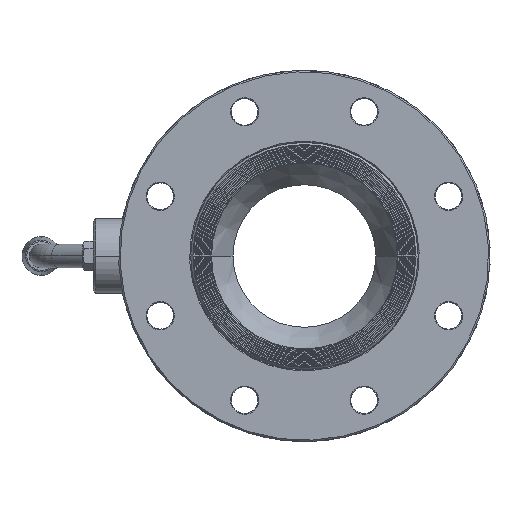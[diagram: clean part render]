
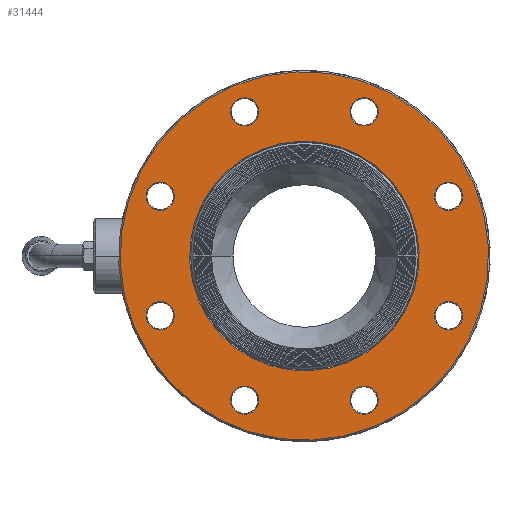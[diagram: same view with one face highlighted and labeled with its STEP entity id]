
A CAD part, left-side view. The second image highlights one B-rep face of the part: STEP entity #31444.
In plain terms, the highlighted planar face has unit normal (-1, 0, 0).
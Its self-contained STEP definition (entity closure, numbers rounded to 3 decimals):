
#3973=CARTESIAN_POINT('',(-98.,0.,0.));
#3974=DIRECTION('',(-1.,0.,0.));
#3975=DIRECTION('',(0.,-0.924,0.383));
#3976=AXIS2_PLACEMENT_3D('',#3973,#3974,#3975);
#3981=CARTESIAN_POINT('',(-98.,0.,0.));
#3982=DIRECTION('',(-1.,0.,0.));
#3983=DIRECTION('',(0.,0.924,-0.383));
#3984=AXIS2_PLACEMENT_3D('',#3981,#3982,#3983);
#3989=CARTESIAN_POINT('',(-98.,0.,0.));
#3990=DIRECTION('',(-1.,0.,0.));
#3991=DIRECTION('',(0.,-0.924,0.383));
#3992=AXIS2_PLACEMENT_3D('',#3989,#3990,#3991);
#3997=CARTESIAN_POINT('',(-98.,0.,0.));
#3998=DIRECTION('',(-1.,0.,0.));
#3999=DIRECTION('',(0.,0.924,-0.383));
#4000=AXIS2_PLACEMENT_3D('',#3997,#3998,#3999);
#4005=CARTESIAN_POINT('',(-98.,97.007,40.182));
#4006=DIRECTION('',(1.,0.,0.));
#4007=DIRECTION('',(0.,0.924,-0.383));
#4008=AXIS2_PLACEMENT_3D('',#4005,#4006,#4007);
#4013=CARTESIAN_POINT('',(-98.,97.007,40.182));
#4014=DIRECTION('',(1.,0.,0.));
#4015=DIRECTION('',(0.,-0.924,0.383));
#4016=AXIS2_PLACEMENT_3D('',#4013,#4014,#4015);
#4021=CARTESIAN_POINT('',(-98.,97.007,-40.182));
#4022=DIRECTION('',(1.,0.,0.));
#4023=DIRECTION('',(0.,0.924,-0.383));
#4024=AXIS2_PLACEMENT_3D('',#4021,#4022,#4023);
#4029=CARTESIAN_POINT('',(-98.,97.007,-40.182));
#4030=DIRECTION('',(1.,0.,0.));
#4031=DIRECTION('',(0.,-0.924,0.383));
#4032=AXIS2_PLACEMENT_3D('',#4029,#4030,#4031);
#4037=CARTESIAN_POINT('',(-98.,40.182,-97.007));
#4038=DIRECTION('',(1.,0.,0.));
#4039=DIRECTION('',(0.,0.924,-0.383));
#4040=AXIS2_PLACEMENT_3D('',#4037,#4038,#4039);
#4045=CARTESIAN_POINT('',(-98.,40.182,-97.007));
#4046=DIRECTION('',(1.,0.,0.));
#4047=DIRECTION('',(0.,-0.924,0.383));
#4048=AXIS2_PLACEMENT_3D('',#4045,#4046,#4047);
#4053=CARTESIAN_POINT('',(-98.,-40.182,-97.007));
#4054=DIRECTION('',(1.,0.,0.));
#4055=DIRECTION('',(0.,0.924,-0.383));
#4056=AXIS2_PLACEMENT_3D('',#4053,#4054,#4055);
#4061=CARTESIAN_POINT('',(-98.,-40.182,-97.007));
#4062=DIRECTION('',(1.,0.,0.));
#4063=DIRECTION('',(0.,-0.924,0.383));
#4064=AXIS2_PLACEMENT_3D('',#4061,#4062,#4063);
#4069=CARTESIAN_POINT('',(-98.,-97.007,-40.182));
#4070=DIRECTION('',(1.,0.,0.));
#4071=DIRECTION('',(0.,0.924,-0.383));
#4072=AXIS2_PLACEMENT_3D('',#4069,#4070,#4071);
#4077=CARTESIAN_POINT('',(-98.,-97.007,-40.182));
#4078=DIRECTION('',(1.,0.,0.));
#4079=DIRECTION('',(0.,-0.924,0.383));
#4080=AXIS2_PLACEMENT_3D('',#4077,#4078,#4079);
#4085=CARTESIAN_POINT('',(-98.,-97.007,40.182));
#4086=DIRECTION('',(1.,0.,0.));
#4087=DIRECTION('',(0.,0.924,-0.383));
#4088=AXIS2_PLACEMENT_3D('',#4085,#4086,#4087);
#4093=CARTESIAN_POINT('',(-98.,-97.007,40.182));
#4094=DIRECTION('',(1.,0.,0.));
#4095=DIRECTION('',(0.,-0.924,0.383));
#4096=AXIS2_PLACEMENT_3D('',#4093,#4094,#4095);
#4101=CARTESIAN_POINT('',(-98.,-40.182,97.007));
#4102=DIRECTION('',(1.,0.,0.));
#4103=DIRECTION('',(0.,0.924,-0.383));
#4104=AXIS2_PLACEMENT_3D('',#4101,#4102,#4103);
#4109=CARTESIAN_POINT('',(-98.,-40.182,97.007));
#4110=DIRECTION('',(1.,0.,0.));
#4111=DIRECTION('',(0.,-0.924,0.383));
#4112=AXIS2_PLACEMENT_3D('',#4109,#4110,#4111);
#4117=CARTESIAN_POINT('',(-98.,40.182,97.007));
#4118=DIRECTION('',(1.,0.,0.));
#4119=DIRECTION('',(0.,0.924,-0.383));
#4120=AXIS2_PLACEMENT_3D('',#4117,#4118,#4119);
#4125=CARTESIAN_POINT('',(-98.,40.182,97.007));
#4126=DIRECTION('',(1.,0.,0.));
#4127=DIRECTION('',(0.,-0.924,0.383));
#4128=AXIS2_PLACEMENT_3D('',#4125,#4126,#4127);
#27406=CARTESIAN_POINT('',(-98.,-71.37,29.562));
#27407=CARTESIAN_POINT('',(-98.,71.37,-29.562));
#27408=VERTEX_POINT('',#27406);
#27409=VERTEX_POINT('',#27407);
#27422=CARTESIAN_POINT('',(-98.,-114.561,47.453));
#27423=CARTESIAN_POINT('',(-98.,114.561,-47.453));
#27424=VERTEX_POINT('',#27422);
#27425=VERTEX_POINT('',#27423);
#27494=CARTESIAN_POINT('',(-98.,105.784,36.547));
#27495=CARTESIAN_POINT('',(-98.,88.231,43.817));
#27496=VERTEX_POINT('',#27494);
#27497=VERTEX_POINT('',#27495);
#27502=CARTESIAN_POINT('',(-98.,105.784,-43.817));
#27503=CARTESIAN_POINT('',(-98.,88.231,-36.547));
#27504=VERTEX_POINT('',#27502);
#27505=VERTEX_POINT('',#27503);
#27510=CARTESIAN_POINT('',(-98.,48.958,-100.643));
#27511=CARTESIAN_POINT('',(-98.,31.405,-93.372));
#27512=VERTEX_POINT('',#27510);
#27513=VERTEX_POINT('',#27511);
#27518=CARTESIAN_POINT('',(-98.,-31.405,-100.643));
#27519=CARTESIAN_POINT('',(-98.,-48.958,-93.372));
#27520=VERTEX_POINT('',#27518);
#27521=VERTEX_POINT('',#27519);
#27526=CARTESIAN_POINT('',(-98.,-88.231,-43.817));
#27527=CARTESIAN_POINT('',(-98.,-105.784,-36.547));
#27528=VERTEX_POINT('',#27526);
#27529=VERTEX_POINT('',#27527);
#27534=CARTESIAN_POINT('',(-98.,-88.231,36.547));
#27535=CARTESIAN_POINT('',(-98.,-105.784,43.817));
#27536=VERTEX_POINT('',#27534);
#27537=VERTEX_POINT('',#27535);
#27542=CARTESIAN_POINT('',(-98.,-31.405,93.372));
#27543=CARTESIAN_POINT('',(-98.,-48.958,100.643));
#27544=VERTEX_POINT('',#27542);
#27545=VERTEX_POINT('',#27543);
#27550=CARTESIAN_POINT('',(-98.,48.958,93.372));
#27551=CARTESIAN_POINT('',(-98.,31.405,100.643));
#27552=VERTEX_POINT('',#27550);
#27553=VERTEX_POINT('',#27551);
#31381=CARTESIAN_POINT('',(-98.,0.,0.));
#31382=DIRECTION('',(-1.,0.,0.));
#31383=DIRECTION('',(0.,0.924,-0.383));
#31384=AXIS2_PLACEMENT_3D('',#31381,#31382,#31383);
#31385=PLANE('',#31384);
#31387=ORIENTED_EDGE('',*,*,#31386,.F.);
#31389=ORIENTED_EDGE('',*,*,#31388,.F.);
#31390=EDGE_LOOP('',(#31387,#31389));
#31391=FACE_OUTER_BOUND('',#31390,.F.);
#31392=ORIENTED_EDGE('',*,*,#31374,.T.);
#31393=ORIENTED_EDGE('',*,*,#31346,.T.);
#31394=EDGE_LOOP('',(#31392,#31393));
#31395=FACE_BOUND('',#31394,.F.);
#31397=ORIENTED_EDGE('',*,*,#31396,.F.);
#31399=ORIENTED_EDGE('',*,*,#31398,.F.);
#31400=EDGE_LOOP('',(#31397,#31399));
#31401=FACE_BOUND('',#31400,.F.);
#31403=ORIENTED_EDGE('',*,*,#31402,.F.);
#31405=ORIENTED_EDGE('',*,*,#31404,.F.);
#31406=EDGE_LOOP('',(#31403,#31405));
#31407=FACE_BOUND('',#31406,.F.);
#31409=ORIENTED_EDGE('',*,*,#31408,.F.);
#31411=ORIENTED_EDGE('',*,*,#31410,.F.);
#31412=EDGE_LOOP('',(#31409,#31411));
#31413=FACE_BOUND('',#31412,.F.);
#31415=ORIENTED_EDGE('',*,*,#31414,.F.);
#31417=ORIENTED_EDGE('',*,*,#31416,.F.);
#31418=EDGE_LOOP('',(#31415,#31417));
#31419=FACE_BOUND('',#31418,.F.);
#31421=ORIENTED_EDGE('',*,*,#31420,.F.);
#31423=ORIENTED_EDGE('',*,*,#31422,.F.);
#31424=EDGE_LOOP('',(#31421,#31423));
#31425=FACE_BOUND('',#31424,.F.);
#31427=ORIENTED_EDGE('',*,*,#31426,.F.);
#31429=ORIENTED_EDGE('',*,*,#31428,.F.);
#31430=EDGE_LOOP('',(#31427,#31429));
#31431=FACE_BOUND('',#31430,.F.);
#31433=ORIENTED_EDGE('',*,*,#31432,.F.);
#31435=ORIENTED_EDGE('',*,*,#31434,.F.);
#31436=EDGE_LOOP('',(#31433,#31435));
#31437=FACE_BOUND('',#31436,.F.);
#31439=ORIENTED_EDGE('',*,*,#31438,.F.);
#31441=ORIENTED_EDGE('',*,*,#31440,.F.);
#31442=EDGE_LOOP('',(#31439,#31441));
#31443=FACE_BOUND('',#31442,.F.);
#31444=ADVANCED_FACE('',(#31391,#31395,#31401,#31407,#31413,#31419,#31425,
#31431,#31437,#31443),#31385,.T.);
#3977=CIRCLE('',#3976,124.);
#3985=CIRCLE('',#3984,124.);
#3993=CIRCLE('',#3992,77.25);
#4001=CIRCLE('',#4000,77.25);
#4009=CIRCLE('',#4008,9.499);
#4017=CIRCLE('',#4016,9.499);
#4025=CIRCLE('',#4024,9.499);
#4033=CIRCLE('',#4032,9.499);
#4041=CIRCLE('',#4040,9.499);
#4049=CIRCLE('',#4048,9.499);
#4057=CIRCLE('',#4056,9.499);
#4065=CIRCLE('',#4064,9.499);
#4073=CIRCLE('',#4072,9.499);
#4081=CIRCLE('',#4080,9.499);
#4089=CIRCLE('',#4088,9.499);
#4097=CIRCLE('',#4096,9.499);
#4105=CIRCLE('',#4104,9.499);
#4113=CIRCLE('',#4112,9.499);
#4121=CIRCLE('',#4120,9.499);
#4129=CIRCLE('',#4128,9.499);
#31346=EDGE_CURVE('',#27409,#27408,#4001,.T.);
#31374=EDGE_CURVE('',#27408,#27409,#3993,.T.);
#31386=EDGE_CURVE('',#27424,#27425,#3977,.T.);
#31388=EDGE_CURVE('',#27425,#27424,#3985,.T.);
#31396=EDGE_CURVE('',#27496,#27497,#4009,.T.);
#31398=EDGE_CURVE('',#27497,#27496,#4017,.T.);
#31402=EDGE_CURVE('',#27504,#27505,#4025,.T.);
#31404=EDGE_CURVE('',#27505,#27504,#4033,.T.);
#31408=EDGE_CURVE('',#27512,#27513,#4041,.T.);
#31410=EDGE_CURVE('',#27513,#27512,#4049,.T.);
#31414=EDGE_CURVE('',#27520,#27521,#4057,.T.);
#31416=EDGE_CURVE('',#27521,#27520,#4065,.T.);
#31420=EDGE_CURVE('',#27528,#27529,#4073,.T.);
#31422=EDGE_CURVE('',#27529,#27528,#4081,.T.);
#31426=EDGE_CURVE('',#27536,#27537,#4089,.T.);
#31428=EDGE_CURVE('',#27537,#27536,#4097,.T.);
#31432=EDGE_CURVE('',#27544,#27545,#4105,.T.);
#31434=EDGE_CURVE('',#27545,#27544,#4113,.T.);
#31438=EDGE_CURVE('',#27552,#27553,#4121,.T.);
#31440=EDGE_CURVE('',#27553,#27552,#4129,.T.);
